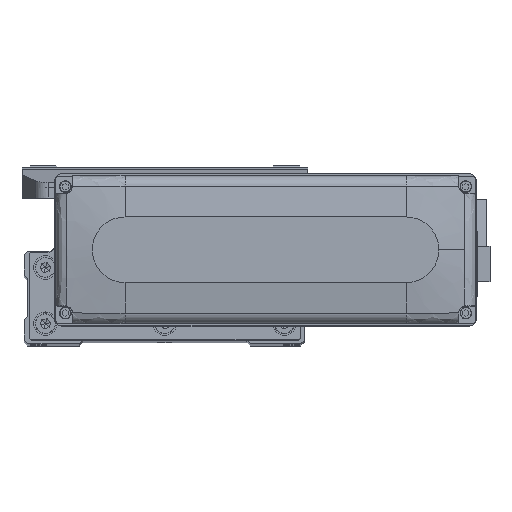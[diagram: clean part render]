
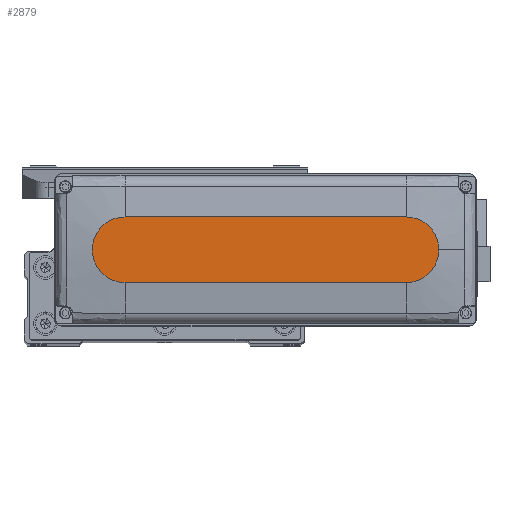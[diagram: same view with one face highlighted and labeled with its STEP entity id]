
A CAD part, top view. The second image highlights one B-rep face of the part: STEP entity #2879.
In plain terms, the highlighted planar face has unit normal (0, 0, 1).
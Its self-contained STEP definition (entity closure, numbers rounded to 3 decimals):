
#1854 = EDGE_CURVE ( 'NONE', #37589, #29629, #5698, .T. ) ;
#2523 = CARTESIAN_POINT ( 'NONE',  ( -60., 0., 28.5 ) ) ;
#2879 = ADVANCED_FACE ( 'NONE', ( #29035 ), #42720, .T. ) ;
#4772 = EDGE_CURVE ( 'NONE', #43000, #40432, #9559, .T. ) ;
#5698 = LINE ( 'NONE', #19439, #7871 ) ;
#5759 = EDGE_CURVE ( 'NONE', #38293, #43000, #33449, .T. ) ;
#6758 = DIRECTION ( 'NONE',  ( 0., 0., 1. ) ) ;
#7871 = VECTOR ( 'NONE', #33126, 1000. ) ;
#8661 = AXIS2_PLACEMENT_3D ( 'NONE', #11970, #25675, #39362 ) ;
#9495 = CARTESIAN_POINT ( 'NONE',  ( -60., 14., 28.5 ) ) ;
#9559 = LINE ( 'NONE', #23287, #41972 ) ;
#10021 = CIRCLE ( 'NONE', #35140, 14. ) ;
#10793 = DIRECTION ( 'NONE',  ( 0., 0., 1. ) ) ;
#11970 = CARTESIAN_POINT ( 'NONE',  ( 0., 0., 28.5 ) ) ;
#12433 = CARTESIAN_POINT ( 'NONE',  ( 74., 0., 28.5 ) ) ;
#13255 = EDGE_LOOP ( 'NONE', ( #27901, #13629, #33080, #24233, #34546 ) ) ;
#13629 = ORIENTED_EDGE ( 'NONE', *, *, #18283, .T. ) ;
#14090 = AXIS2_PLACEMENT_3D ( 'NONE', #41568, #10793, #24511 ) ;
#16273 = DIRECTION ( 'NONE',  ( 0., 0., 1. ) ) ;
#18283 = EDGE_CURVE ( 'NONE', #40432, #37589, #10021, .T. ) ;
#19439 = CARTESIAN_POINT ( 'NONE',  ( -60., -14., 28.5 ) ) ;
#20489 = DIRECTION ( 'NONE',  ( 1., 0., 0. ) ) ;
#21400 = AXIS2_PLACEMENT_3D ( 'NONE', #37552, #6758, #20489 ) ;
#23287 = CARTESIAN_POINT ( 'NONE',  ( -60., 14., 28.5 ) ) ;
#24233 = ORIENTED_EDGE ( 'NONE', *, *, #33775, .T. ) ;
#24511 = DIRECTION ( 'NONE',  ( 1., 0., 0. ) ) ;
#25675 = DIRECTION ( 'NONE',  ( 0., 0., 1. ) ) ;
#27901 = ORIENTED_EDGE ( 'NONE', *, *, #4772, .T. ) ;
#29035 = FACE_OUTER_BOUND ( 'NONE', #13255, .T. ) ;
#29629 = VERTEX_POINT ( 'NONE', #30740 ) ;
#29982 = DIRECTION ( 'NONE',  ( 1., 0., 0. ) ) ;
#30740 = CARTESIAN_POINT ( 'NONE',  ( 60., -14., 28.5 ) ) ;
#33080 = ORIENTED_EDGE ( 'NONE', *, *, #1854, .T. ) ;
#33126 = DIRECTION ( 'NONE',  ( 1., 0., 0. ) ) ;
#33449 = CIRCLE ( 'NONE', #14090, 14. ) ;
#33775 = EDGE_CURVE ( 'NONE', #29629, #38293, #40764, .T. ) ;
#34527 = CARTESIAN_POINT ( 'NONE',  ( -60., -14., 28.5 ) ) ;
#34546 = ORIENTED_EDGE ( 'NONE', *, *, #5759, .T. ) ;
#35140 = AXIS2_PLACEMENT_3D ( 'NONE', #2523, #16273, #29982 ) ;
#36700 = CARTESIAN_POINT ( 'NONE',  ( 60., 14., 28.5 ) ) ;
#36962 = DIRECTION ( 'NONE',  ( -1., 0., 0. ) ) ;
#37552 = CARTESIAN_POINT ( 'NONE',  ( 60., 0., 28.5 ) ) ;
#37589 = VERTEX_POINT ( 'NONE', #34527 ) ;
#38293 = VERTEX_POINT ( 'NONE', #12433 ) ;
#39362 = DIRECTION ( 'NONE',  ( 1., 0., 0. ) ) ;
#40432 = VERTEX_POINT ( 'NONE', #9495 ) ;
#40764 = CIRCLE ( 'NONE', #21400, 14. ) ;
#41568 = CARTESIAN_POINT ( 'NONE',  ( 60., 0., 28.5 ) ) ;
#41972 = VECTOR ( 'NONE', #36962, 1000. ) ;
#42720 = PLANE ( 'NONE',  #8661 ) ;
#43000 = VERTEX_POINT ( 'NONE', #36700 ) ;
